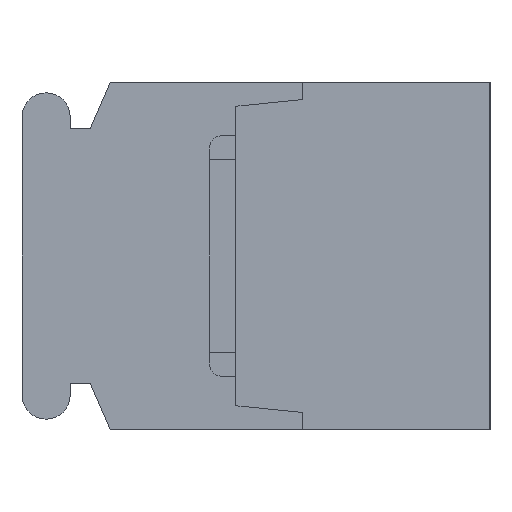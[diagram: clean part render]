
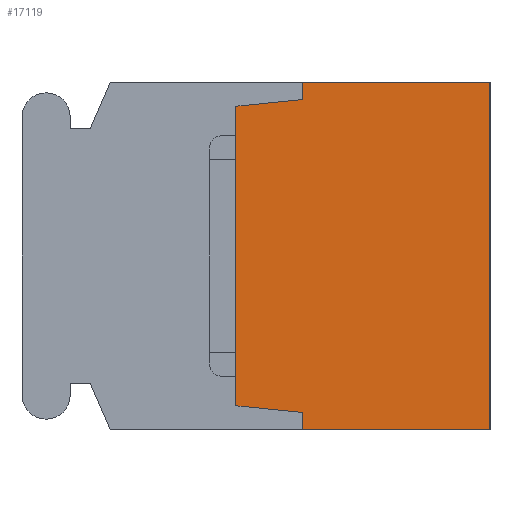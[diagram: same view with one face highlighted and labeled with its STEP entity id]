
A CAD part, left-side view. The second image highlights one B-rep face of the part: STEP entity #17119.
In plain terms, the highlighted planar face has unit normal (-1, 0, 0).
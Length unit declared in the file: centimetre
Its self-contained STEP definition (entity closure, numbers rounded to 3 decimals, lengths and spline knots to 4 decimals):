
#1199=VECTOR('',#18950,1.);
#1232=VECTOR('',#18984,1.);
#1294=VECTOR('',#19062,1.);
#2131=VECTOR('',#21207,1.);
#2132=VECTOR('',#21208,1.);
#2133=VECTOR('',#21209,1.);
#2134=VECTOR('',#21210,1.);
#2135=VECTOR('',#21211,1.);
#3085=LINE('',#23727,#1199);
#3118=LINE('',#23792,#1232);
#3180=LINE('',#23919,#1294);
#4017=LINE('',#26730,#2131);
#4018=LINE('',#26732,#2132);
#4019=LINE('',#26734,#2133);
#4020=LINE('',#26736,#2134);
#4021=LINE('',#26738,#2135);
#4978=VERTEX_POINT('',#23724);
#4979=VERTEX_POINT('',#23726);
#5011=VERTEX_POINT('',#23793);
#5063=VERTEX_POINT('',#23918);
#5872=VERTEX_POINT('',#26731);
#5873=VERTEX_POINT('',#26733);
#5874=VERTEX_POINT('',#26735);
#5875=VERTEX_POINT('',#26737);
#7247=EDGE_CURVE('',#4979,#4978,#3085,.T.);
#7280=EDGE_CURVE('',#4978,#5011,#3118,.T.);
#7344=EDGE_CURVE('',#5063,#4979,#3180,.T.);
#8585=EDGE_CURVE('',#5872,#5063,#4017,.T.);
#8586=EDGE_CURVE('',#5873,#5872,#4018,.T.);
#8587=EDGE_CURVE('',#5874,#5873,#4019,.T.);
#8588=EDGE_CURVE('',#5875,#5874,#4020,.T.);
#8589=EDGE_CURVE('',#5011,#5875,#4021,.T.);
#13191=ORIENTED_EDGE('',*,*,#7247,.F.);
#13192=ORIENTED_EDGE('',*,*,#7344,.F.);
#13193=ORIENTED_EDGE('',*,*,#8585,.F.);
#13194=ORIENTED_EDGE('',*,*,#8586,.F.);
#13195=ORIENTED_EDGE('',*,*,#8587,.F.);
#13196=ORIENTED_EDGE('',*,*,#8588,.F.);
#13197=ORIENTED_EDGE('',*,*,#8589,.F.);
#13198=ORIENTED_EDGE('',*,*,#7280,.F.);
#15073=EDGE_LOOP('',(#13191,#13192,#13193,#13194,#13195,#13196,#13197,#13198));
#16147=FACE_BOUND('',#15073,.T.);
#17119=ADVANCED_FACE('',(#16147),#17890,.F.);
#17890=PLANE('',#29341);
#18950=DIRECTION('',(0.,0.,-1.));
#18984=DIRECTION('',(0.,1.,0.));
#19062=DIRECTION('',(0.,-1.,0.));
#21206=DIRECTION('',(1.,0.,0.));
#21207=DIRECTION('',(0.,0.,1.));
#21208=DIRECTION('',(0.,-0.995,0.1));
#21209=DIRECTION('',(0.,0.,1.));
#21210=DIRECTION('',(0.,0.995,0.1));
#21211=DIRECTION('',(0.,0.,1.));
#23724=CARTESIAN_POINT('',(-1.84,0.,-0.65));
#23726=CARTESIAN_POINT('',(-1.84,0.,0.65));
#23727=CARTESIAN_POINT('',(-1.84,0.,0.65));
#23792=CARTESIAN_POINT('',(-1.84,0.,-0.65));
#23793=CARTESIAN_POINT('',(-1.84,0.7,-0.65));
#23918=CARTESIAN_POINT('',(-1.84,0.7,0.65));
#23919=CARTESIAN_POINT('',(-1.84,0.7,0.65));
#26729=CARTESIAN_POINT('',(-1.84,0.4626,0.));
#26730=CARTESIAN_POINT('',(-1.84,0.7,0.585));
#26731=CARTESIAN_POINT('',(-1.84,0.7,0.585));
#26732=CARTESIAN_POINT('',(-1.84,0.95,0.56));
#26733=CARTESIAN_POINT('',(-1.84,0.95,0.56));
#26734=CARTESIAN_POINT('',(-1.84,0.95,-0.56));
#26735=CARTESIAN_POINT('',(-1.84,0.95,-0.56));
#26736=CARTESIAN_POINT('',(-1.84,0.7,-0.585));
#26737=CARTESIAN_POINT('',(-1.84,0.7,-0.585));
#26738=CARTESIAN_POINT('',(-1.84,0.7,-0.65));
#29341=AXIS2_PLACEMENT_3D('',#26729,#21206,$);
